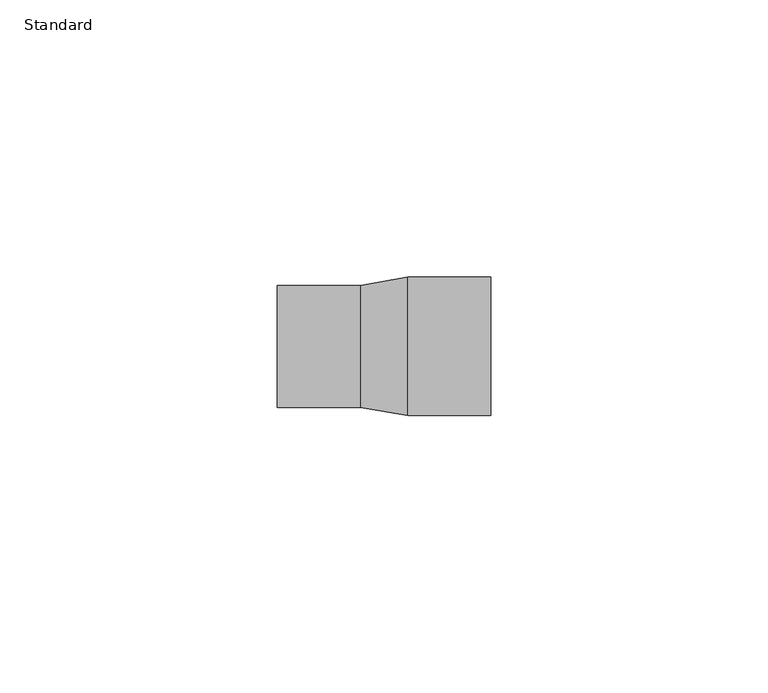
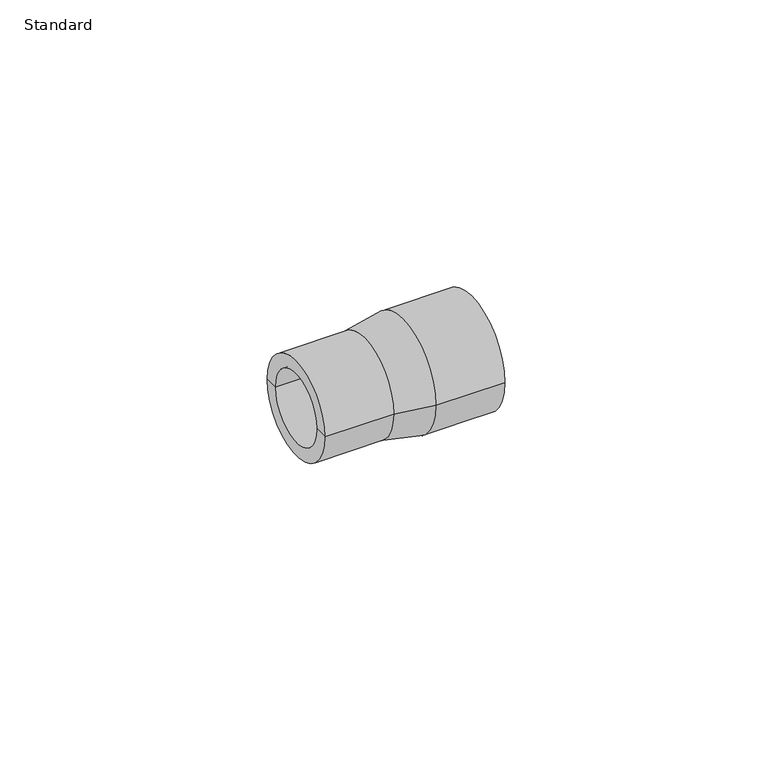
"""IFC4 building model written with IfcOpenShell, lengths in millimetres: pipe fitting geometry, Durapipe_PipeFitting_PVC_Reducers : Standard."""

from ifc_helpers import new_model, si_unit, frame, origin, place, context, project, spatial, polyline, circle_curve, source, transform, mapped, element, save
from ifc_brep_helpers import plane_surface, cylinder_surface, revolved_surface, advanced_brep


def standard_95fd0c06(model_context):
    return source(origin(), model_context, "Body", "AdvancedBrep", [
        advanced_brep(
        [(-19.25, -11.0, 0.0), (-19.25, 11.0, 0.0), (-4.25, 11.0, 0.0), (-4.25, -11.0, 0.0), (-19.25, -8.0, 0.0), (-19.25, 8.0, 0.0), (19.25, -12.5, 0.0), (19.25, 12.5, 0.0), (19.25, 10.0, 0.0), (19.25, -10.0, 0.0), (4.25, -12.5, 0.0), (4.25, 12.5, 0.0), (-4.25, -8.0, 0.0), (-4.25, 8.0, 0.0), (-4.25, 0.0, 0.0), (4.25, -10.0, 0.0), (4.25, 10.0, 0.0), (4.25, 0.0, 0.0)],
        [
            (0, 1, circle_curve(frame((-19.25, 0.0, 0.0), z_axis=(1.0, 0.0, 0.0), x_axis=(0.0, 1.0, 0.0)), 11.0)),
            (1, 2),
            (2, 3, circle_curve(frame((-4.25, 0.0, 0.0), z_axis=(-1.0, 0.0, 0.0), x_axis=(0.0, 1.0, 0.0)), 11.0)),
            (3, 0),
            (1, 0, circle_curve(frame((-19.25, 0.0, 0.0), z_axis=(1.0, 0.0, 0.0), x_axis=(0.0, 1.0, 0.0)), 11.0)),
            (3, 2, circle_curve(frame((-4.25, 0.0, 0.0), z_axis=(-1.0, 0.0, 0.0), x_axis=(0.0, 1.0, 0.0)), 11.0)),
            (4, 5, circle_curve(frame((-19.25, 0.0, 0.0), z_axis=(1.0, 0.0, 0.0), x_axis=(0.0, 1.0, 0.0)), 8.0)),
            (5, 1),
            (0, 4),
            (5, 4, circle_curve(frame((-19.25, 0.0, 0.0), z_axis=(1.0, 0.0, 0.0), x_axis=(0.0, 1.0, 0.0)), 8.0)),
            (6, 7, circle_curve(frame((19.25, 0.0, 0.0), z_axis=(1.0, 0.0, 0.0), x_axis=(0.0, 1.0, 0.0)), 12.5)),
            (7, 8),
            (8, 9, circle_curve(frame((19.25, 0.0, 0.0), z_axis=(-1.0, 0.0, 0.0), x_axis=(0.0, 1.0, 0.0)), 10.0)),
            (9, 6),
            (7, 6, circle_curve(frame((19.25, 0.0, 0.0), z_axis=(1.0, 0.0, 0.0), x_axis=(0.0, 1.0, 0.0)), 12.5)),
            (9, 8, circle_curve(frame((19.25, 0.0, 0.0), z_axis=(-1.0, 0.0, 0.0), x_axis=(0.0, 1.0, 0.0)), 10.0)),
            (10, 11, circle_curve(frame((4.25, 0.0, 0.0), z_axis=(1.0, 0.0, 0.0), x_axis=(0.0, 1.0, 0.0)), 12.5)),
            (11, 7),
            (6, 10),
            (11, 10, circle_curve(frame((4.25, 0.0, 0.0), z_axis=(1.0, 0.0, 0.0), x_axis=(0.0, 1.0, 0.0)), 12.5)),
            (2, 11),
            (10, 3),
            (12, 13, circle_curve(frame((-4.25, 0.0, 0.0), z_axis=(1.0, 0.0, 0.0), x_axis=(0.0, 1.0, 0.0)), 8.0)),
            (13, 5),
            (4, 12),
            (13, 12, circle_curve(frame((-4.25, 0.0, 0.0), z_axis=(1.0, 0.0, 0.0), x_axis=(0.0, 1.0, 0.0)), 8.0)),
            (14, 13),
            (12, 14),
            (15, 16, circle_curve(frame((4.25, 0.0, 0.0), z_axis=(1.0, 0.0, 0.0), x_axis=(0.0, 1.0, 0.0)), 10.0)),
            (16, 17),
            (17, 15),
            (16, 15, circle_curve(frame((4.25, 0.0, 0.0), z_axis=(1.0, 0.0, 0.0), x_axis=(0.0, 1.0, 0.0)), 10.0)),
            (8, 16),
            (15, 9),
        ],
        [
            cylinder_surface(frame((-19.25, 0.0, 0.0), z_axis=(-1.0, 0.0, 0.0), x_axis=(0.0, 1.0, 0.0)), 11.0),
            plane_surface(frame((-19.25, 0.0, 0.0), z_axis=(-1.0, 0.0, 0.0), x_axis=(0.0, 1.0, 0.0))),
            plane_surface(frame((19.25, 0.0, 0.0), z_axis=(1.0, 0.0, 0.0), x_axis=(0.0, 1.0, 0.0))),
            cylinder_surface(frame((-19.25, 0.0, 0.0), z_axis=(-1.0, 0.0, 0.0), x_axis=(0.0, 1.0, 0.0)), 12.5),
            revolved_surface(polyline([(4.25, 12.5, 0.0), (-4.25, 11.0, 0.0)]), (-19.25, 0.0, 0.0), (-1.0, 0.0, 0.0)),
            revolved_surface(polyline([(-19.25, 8.0, 0.0), (-4.25, 8.0, 0.0)]), (-19.25, 0.0, 0.0), (-1.0, 0.0, 0.0)),
            plane_surface(frame((-4.25, 0.0, 0.0), z_axis=(-1.0, 0.0, 0.0), x_axis=(0.0, 1.0, 0.0))),
            plane_surface(frame((4.25, 0.0, 0.0), z_axis=(1.0, 0.0, 0.0), x_axis=(0.0, 1.0, 0.0))),
            revolved_surface(polyline([(4.25, 10.0, 0.0), (19.25, 10.0, 0.0)]), (-19.25, 0.0, 0.0), (-1.0, 0.0, 0.0)),
        ],
        [
            (0, [[1, 2, 3, 4]]),
            (0, [[5, -4, 6, -2]]),
            (1, [[7, 8, -1, 9]]),
            (1, [[10, -9, -5, -8]]),
            (2, [[11, 12, 13, 14]]),
            (2, [[15, -14, 16, -12]]),
            (3, [[17, 18, -11, 19]]),
            (3, [[20, -19, -15, -18]]),
            (4, [[-3, 21, -17, 22]]),
            (4, [[-6, -22, -20, -21]]),
            (5, [[23, 24, -7, 25]]),
            (5, [[26, -25, -10, -24]]),
            (6, [[27, -23, 28]]),
            (6, [[-28, -26, -27]]),
            (7, [[29, 30, 31]]),
            (7, [[32, -31, -30]]),
            (8, [[-13, 33, -29, 34]]),
            (8, [[-16, -34, -32, -33]]),
        ],
    ),
    ])


if __name__ == "__main__":
    model = new_model("IFC4")
    model_context = context("Model", 3, world=origin())
    ifc_project = project(units=[si_unit("LENGTHUNIT", "METRE", prefix="MILLI")], contexts=[model_context])
    site = spatial("IfcSite", under=ifc_project)
    building = spatial("IfcBuilding", under=site)
    placement = place(None, origin())
    standard_shape = standard_95fd0c06(model_context)
    element("IfcPipeFitting", 1, ObjectType="Durapipe_PipeFitting_PVC_Reducers : Standard", at=placement, inside=building, context=model_context, shape_type="MappedRepresentation", body=[
        mapped(standard_shape, transform((0.0, 0.0, 0.0), x_axis=(1.0, 0.0, 0.0), y_axis=(0.0, 1.0, 0.0), z_axis=(0.0, 0.0, 1.0))),
    ])
    save(model, "model.ifc")
